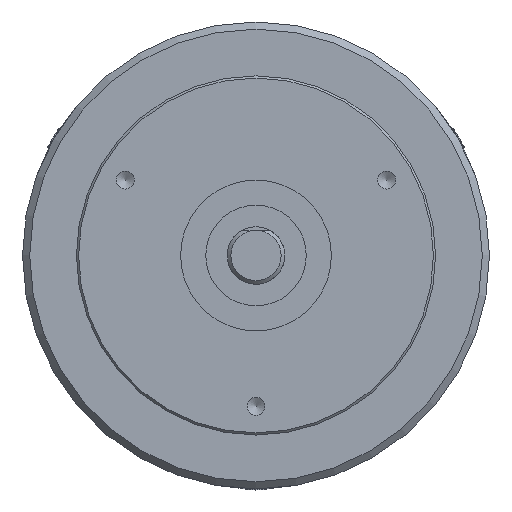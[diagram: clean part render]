
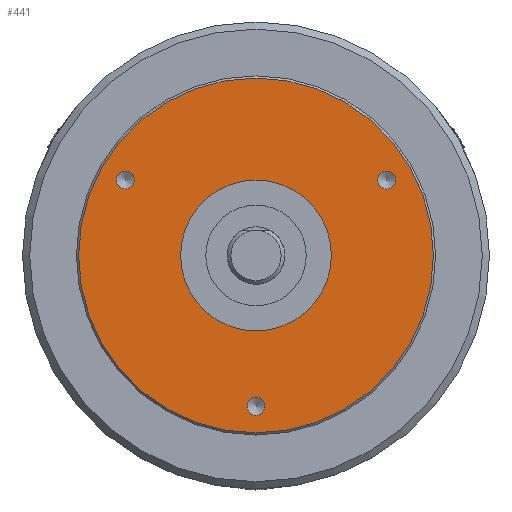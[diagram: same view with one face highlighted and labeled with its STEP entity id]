
A CAD part, left-side view. The second image highlights one B-rep face of the part: STEP entity #441.
In plain terms, the highlighted planar face has unit normal (-1, 0, 0).
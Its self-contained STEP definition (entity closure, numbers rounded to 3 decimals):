
#441=ADVANCED_FACE('',(#1112,#1113,#1114,#1115,#1116),#1117,.F.);
#1112=FACE_OUTER_BOUND('',#2367,.T.);
#1113=FACE_BOUND('',#2368,.T.);
#1114=FACE_BOUND('',#2369,.T.);
#1115=FACE_BOUND('',#2370,.T.);
#1116=FACE_BOUND('',#2371,.T.);
#1117=PLANE('',#2372);
#2367=EDGE_LOOP('',(#4013));
#2368=EDGE_LOOP('',(#4014));
#2369=EDGE_LOOP('',(#4015));
#2370=EDGE_LOOP('',(#4016));
#2371=EDGE_LOOP('',(#4017));
#2372=AXIS2_PLACEMENT_3D('',#4018,#4019,#4020);
#4013=ORIENTED_EDGE('',*,*,#6061,.T.);
#4014=ORIENTED_EDGE('',*,*,#6062,.F.);
#4015=ORIENTED_EDGE('',*,*,#6063,.F.);
#4016=ORIENTED_EDGE('',*,*,#6064,.F.);
#4017=ORIENTED_EDGE('',*,*,#6052,.F.);
#4018=CARTESIAN_POINT('',(0.,17.75,0.0));
#4019=DIRECTION('',(1.0,0.0,0.0));
#4020=DIRECTION('',(0.0,0.0,-1.0));
#6052=EDGE_CURVE('',#6996,#6996,#6997,.T.);
#6061=EDGE_CURVE('',#7012,#7012,#7013,.F.);
#6062=EDGE_CURVE('',#7014,#7014,#7015,.T.);
#6063=EDGE_CURVE('',#7016,#7016,#7017,.T.);
#6064=EDGE_CURVE('',#7018,#7018,#7019,.T.);
#6996=VERTEX_POINT('',#8584);
#6997=CIRCLE('',#8585,10.5);
#7012=VERTEX_POINT('',#8759);
#7013=CIRCLE('',#8760,24.7);
#7014=VERTEX_POINT('',#8761);
#7015=CIRCLE('',#8762,1.25);
#7016=VERTEX_POINT('',#8763);
#7017=CIRCLE('',#8764,1.25);
#7018=VERTEX_POINT('',#8765);
#7019=CIRCLE('',#8766,1.25);
#8584=CARTESIAN_POINT('',(0.0,0.0,10.5));
#8585=AXIS2_PLACEMENT_3D('',#10534,#10535,#10536);
#8759=CARTESIAN_POINT('',(0.,0.,-24.7));
#8760=AXIS2_PLACEMENT_3D('',#10546,#10547,#10548);
#8761=CARTESIAN_POINT('',(0.,-1.25,-21.0));
#8762=AXIS2_PLACEMENT_3D('',#10549,#10550,#10551);
#8763=CARTESIAN_POINT('',(0.,-19.437,10.5));
#8764=AXIS2_PLACEMENT_3D('',#10552,#10553,#10554);
#8765=CARTESIAN_POINT('',(0.,16.937,10.5));
#8766=AXIS2_PLACEMENT_3D('',#10555,#10556,#10557);
#10534=CARTESIAN_POINT('',(0.0,0.0,0.0));
#10535=DIRECTION('',(-1.0,0.0,0.0));
#10536=DIRECTION('',(0.0,0.0,1.0));
#10546=CARTESIAN_POINT('',(0.,0.0,0.0));
#10547=DIRECTION('',(1.0,0.0,0.0));
#10548=DIRECTION('',(0.0,0.0,-1.0));
#10549=CARTESIAN_POINT('',(0.,0.0,-21.0));
#10550=DIRECTION('',(-1.0,0.0,0.0));
#10551=DIRECTION('',(0.0,-1.0,0.0));
#10552=CARTESIAN_POINT('',(0.,-18.187,10.5));
#10553=DIRECTION('',(-1.0,0.0,0.0));
#10554=DIRECTION('',(0.0,-1.0,0.0));
#10555=CARTESIAN_POINT('',(0.,18.187,10.5));
#10556=DIRECTION('',(-1.0,0.0,0.0));
#10557=DIRECTION('',(0.0,-1.0,0.0));
